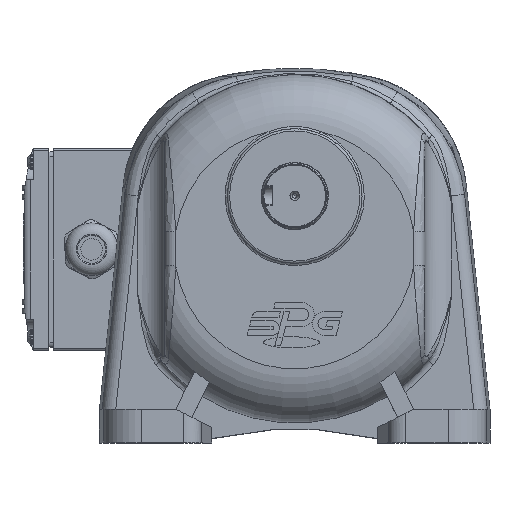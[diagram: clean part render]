
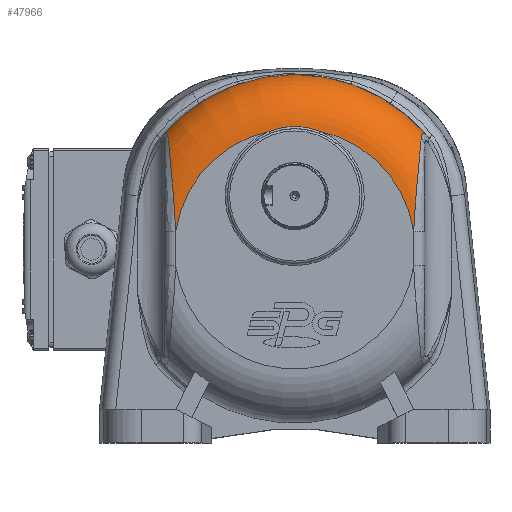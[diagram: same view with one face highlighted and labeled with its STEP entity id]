
A CAD part, top view. The second image highlights one B-rep face of the part: STEP entity #47966.
In plain terms, the highlighted toroidal (fillet/blend) face has major radius 53.545 mm and minor radius 24 mm.
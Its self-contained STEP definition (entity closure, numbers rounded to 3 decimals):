
#2421=B_SPLINE_CURVE_WITH_KNOTS('',3,(#108437,#108438,#108439,#108440,#108441,
#108442,#108443),.UNSPECIFIED.,.F.,.F.,(4,1,1,1,4),(-0.961,
-0.686,-0.412,-0.275,0.),
 .UNSPECIFIED.);
#2422=B_SPLINE_CURVE_WITH_KNOTS('',3,(#108445,#108446,#108447,#108448,#108449,
#108450,#108451,#108452,#108453),.UNSPECIFIED.,.F.,.F.,(4,1,1,1,1,1,4),
(-4.098,-2.927,-2.342,-1.756,
-1.171,-0.585,0.),.UNSPECIFIED.);
#2423=B_SPLINE_CURVE_WITH_KNOTS('',3,(#108457,#108458,#108459,#108460,#108461),
 .UNSPECIFIED.,.F.,.F.,(4,1,4),(-3.142,-0.449,3.142),
 .UNSPECIFIED.);
#2424=B_SPLINE_CURVE_WITH_KNOTS('',3,(#108465,#108466,#108467,#108468,#108469,
#108470,#108471,#108472,#108473),.UNSPECIFIED.,.F.,.F.,(4,1,1,1,1,1,4),
(-9.723,-9.138,-8.553,-7.967,
-7.382,-6.796,-5.626),.UNSPECIFIED.);
#2425=B_SPLINE_CURVE_WITH_KNOTS('',3,(#108474,#108475,#108476,#108477,#108478,
#108479,#108480),.UNSPECIFIED.,.F.,.F.,(4,1,1,1,4),(-0.961,
-0.686,-0.412,-0.275,0.),
 .UNSPECIFIED.);
#8460=TOROIDAL_SURFACE('',#52656,53.545,24.);
#11097=FACE_OUTER_BOUND('',#13991,.T.);
#13991=EDGE_LOOP('',(#40354,#40355,#40356,#40357,#40358,#40359,#40360,#40361));
#16774=CIRCLE('',#52657,77.539);
#16775=CIRCLE('',#52658,53.545);
#16776=CIRCLE('',#52659,53.545);
#20834=VERTEX_POINT('',#108160);
#20861=VERTEX_POINT('',#108434);
#20862=VERTEX_POINT('',#108436);
#20863=VERTEX_POINT('',#108444);
#20864=VERTEX_POINT('',#108454);
#20865=VERTEX_POINT('',#108456);
#20866=VERTEX_POINT('',#108462);
#20867=VERTEX_POINT('',#108464);
#27481=EDGE_CURVE('',#20861,#20834,#16774,.T.);
#27482=EDGE_CURVE('',#20862,#20834,#2421,.T.);
#27483=EDGE_CURVE('',#20863,#20862,#2422,.T.);
#27484=EDGE_CURVE('',#20863,#20864,#16775,.T.);
#27485=EDGE_CURVE('',#20865,#20864,#2423,.T.);
#27486=EDGE_CURVE('',#20865,#20866,#16776,.T.);
#27487=EDGE_CURVE('',#20867,#20866,#2424,.T.);
#27488=EDGE_CURVE('',#20861,#20867,#2425,.T.);
#40354=ORIENTED_EDGE('',*,*,#27481,.T.);
#40355=ORIENTED_EDGE('',*,*,#27482,.F.);
#40356=ORIENTED_EDGE('',*,*,#27483,.F.);
#40357=ORIENTED_EDGE('',*,*,#27484,.T.);
#40358=ORIENTED_EDGE('',*,*,#27485,.F.);
#40359=ORIENTED_EDGE('',*,*,#27486,.T.);
#40360=ORIENTED_EDGE('',*,*,#27487,.F.);
#40361=ORIENTED_EDGE('',*,*,#27488,.F.);
#47966=ADVANCED_FACE('',(#11097),#8460,.T.);
#52656=AXIS2_PLACEMENT_3D('',#108433,#63926,#63927);
#52657=AXIS2_PLACEMENT_3D('',#108435,#63928,#63929);
#52658=AXIS2_PLACEMENT_3D('',#108455,#63930,#63931);
#52659=AXIS2_PLACEMENT_3D('',#108463,#63932,#63933);
#63926=DIRECTION('center_axis',(0.,0.,-1.));
#63927=DIRECTION('ref_axis',(-1.,0.,0.));
#63928=DIRECTION('center_axis',(0.,0.,1.));
#63929=DIRECTION('ref_axis',(-1.,0.,0.));
#63930=DIRECTION('center_axis',(0.,0.,-1.));
#63931=DIRECTION('ref_axis',(-1.,0.,0.));
#63932=DIRECTION('center_axis',(0.,0.,-1.));
#63933=DIRECTION('ref_axis',(-1.,0.,0.));
#108160=CARTESIAN_POINT('',(-66.172,57.151,12.552));
#108433=CARTESIAN_POINT('Origin',(-7.046,6.987,12.));
#108434=CARTESIAN_POINT('',(52.08,57.151,12.552));
#108435=CARTESIAN_POINT('Origin',(-7.046,6.987,12.552));
#108436=CARTESIAN_POINT('',(-63.367,56.032,23.368));
#108437=CARTESIAN_POINT('Ctrl Pts',(-63.367,56.032,
23.368));
#108438=CARTESIAN_POINT('Ctrl Pts',(-63.425,56.698,22.474));
#108439=CARTESIAN_POINT('Ctrl Pts',(-63.626,57.866,
20.476));
#108440=CARTESIAN_POINT('Ctrl Pts',(-64.242,58.432,
17.62));
#108441=CARTESIAN_POINT('Ctrl Pts',(-65.114,58.185,
14.883));
#108442=CARTESIAN_POINT('Ctrl Pts',(-65.741,57.629,
13.422));
#108443=CARTESIAN_POINT('Ctrl Pts',(-66.172,57.151,
12.552));
#108444=CARTESIAN_POINT('',(-60.046,14.61,36.));
#108445=CARTESIAN_POINT('Ctrl Pts',(-60.046,14.61,
36.));
#108446=CARTESIAN_POINT('Ctrl Pts',(-60.191,18.534,36.));
#108447=CARTESIAN_POINT('Ctrl Pts',(-60.567,24.489,35.978));
#108448=CARTESIAN_POINT('Ctrl Pts',(-61.259,32.746,35.208));
#108449=CARTESIAN_POINT('Ctrl Pts',(-61.824,38.975,
34.021));
#108450=CARTESIAN_POINT('Ctrl Pts',(-62.403,45.24,
31.903));
#108451=CARTESIAN_POINT('Ctrl Pts',(-62.942,51.167,
28.572));
#108452=CARTESIAN_POINT('Ctrl Pts',(-63.244,54.611,25.275));
#108453=CARTESIAN_POINT('Ctrl Pts',(-63.367,56.032,
23.368));
#108454=CARTESIAN_POINT('',(-18.502,59.293,36.));
#108455=CARTESIAN_POINT('Origin',(-7.046,6.987,36.));
#108456=CARTESIAN_POINT('',(4.41,59.293,36.));
#108457=CARTESIAN_POINT('Ctrl Pts',(4.41,59.293,36.));
#108458=CARTESIAN_POINT('Ctrl Pts',(1.293,60.509,36.));
#108459=CARTESIAN_POINT('Ctrl Pts',(-6.445,62.187,35.965));
#108460=CARTESIAN_POINT('Ctrl Pts',(-14.347,60.915,
36.));
#108461=CARTESIAN_POINT('Ctrl Pts',(-18.502,59.293,
36.));
#108462=CARTESIAN_POINT('',(45.954,14.61,36.));
#108463=CARTESIAN_POINT('Origin',(-7.046,6.987,36.));
#108464=CARTESIAN_POINT('',(49.275,56.032,23.368));
#108465=CARTESIAN_POINT('Ctrl Pts',(49.275,56.032,23.368));
#108466=CARTESIAN_POINT('Ctrl Pts',(49.152,54.611,25.275));
#108467=CARTESIAN_POINT('Ctrl Pts',(48.85,51.167,28.572));
#108468=CARTESIAN_POINT('Ctrl Pts',(48.31,45.24,31.903));
#108469=CARTESIAN_POINT('Ctrl Pts',(47.731,38.975,34.021));
#108470=CARTESIAN_POINT('Ctrl Pts',(47.167,32.746,35.208));
#108471=CARTESIAN_POINT('Ctrl Pts',(46.475,24.489,35.978));
#108472=CARTESIAN_POINT('Ctrl Pts',(46.098,18.534,36.));
#108473=CARTESIAN_POINT('Ctrl Pts',(45.954,14.61,36.));
#108474=CARTESIAN_POINT('Ctrl Pts',(52.08,57.151,12.552));
#108475=CARTESIAN_POINT('Ctrl Pts',(51.648,57.629,13.422));
#108476=CARTESIAN_POINT('Ctrl Pts',(50.804,58.385,15.383));
#108477=CARTESIAN_POINT('Ctrl Pts',(49.999,58.37,18.229));
#108478=CARTESIAN_POINT('Ctrl Pts',(49.485,57.561,20.985));
#108479=CARTESIAN_POINT('Ctrl Pts',(49.332,56.698,22.474));
#108480=CARTESIAN_POINT('Ctrl Pts',(49.275,56.032,23.368));
